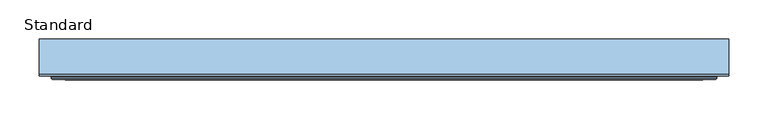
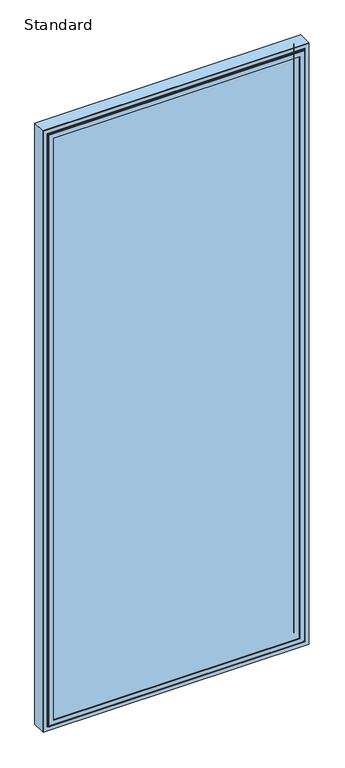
"""IFC4 building model written with IfcOpenShell, lengths in millimetres: window geometry, SMARTS_AlithermHeritage : Standard."""

from ifc_helpers import new_model, si_unit, frame, origin, place, context, project, spatial, polyline, ellipse_curve, outline, extrude, faceted_brep, source, transform, mapped, element, save
from ifc_brep_helpers import plane_surface, cylinder_surface, revolved_surface, advanced_brep


def standard_2bda3373(model_context):
    return source(origin(), model_context, "Body", "SolidModel", [
        extrude(outline(polyline([(2710.0, 440.0), (2710.0, -440.0), (610.0, -440.0), (610.0, 440.0), (2710.0, 440.0)]), holes=[polyline([(627.7000182, 422.2999818), (627.7000182, -422.2999818), (2692.2999818, -422.2999818), (2692.2999818, 422.2999818), (627.7000182, 422.2999818)])]), frame((0.0, 50.279857, 0.0), z_axis=(0.0, 1.0, 0.0), x_axis=(0.0, 0.0, 1.0)), (0.0, 0.0, 1.0), 44.9999962),
        advanced_brep(
        [(407.0, 43.2798432, 2677.0), (407.0, 47.2798432, 2677.0), (407.0, 47.2798432, 643.0), (407.0, 43.2798432, 643.0), (440.0, 50.279857, 2710.0), (440.0, 48.279857, 2710.0), (440.0, 48.279857, 610.0), (440.0, 50.279857, 610.0), (422.4999818, 43.2798432, 2692.4999818), (-422.4999818, 43.2798432, 2692.4999818), (-422.4999818, 43.2798432, 627.5000182), (422.4999818, 43.2798432, 627.5000182), (-407.0, 43.2798432, 643.0), (-407.0, 43.2798432, 2677.0), (-440.0, 50.279857, 2710.0), (-440.0, 48.279857, 2710.0), (-440.0, 50.279857, 610.0), (422.2999818, 50.279857, 2692.2999818), (-422.2999818, 50.279857, 2692.2999818), (-422.2999818, 50.279857, 627.7000182), (422.2999818, 50.279857, 627.7000182), (-407.0, 47.2798432, 2677.0), (-407.0, 47.2798432, 643.0), (-440.0, 48.279857, 610.0), (-422.2999818, 47.2798432, 2692.2999818), (422.2999818, 47.2798432, 2692.2999818), (422.2999818, 47.2798432, 627.7000182), (424.4999818, 46.779857, 625.5000182), (424.4999818, 45.2798432, 625.5000182), (-424.4999818, 45.2798432, 625.5000182), (-424.4999818, 46.779857, 625.5000182), (424.4999818, 46.779857, 2694.4999818), (424.4999818, 45.2798432, 2694.4999818), (-422.2999818, 47.2798432, 627.7000182), (-424.4999818, 45.2798432, 2694.4999818), (-424.4999818, 46.779857, 2694.4999818), (425.9999818, 48.279857, 2695.9999818), (425.9999818, 48.279857, 624.0000182), (-425.9999818, 48.279857, 624.0000182), (-425.9999818, 48.279857, 2695.9999818)],
        [
            (0, 1),
            (1, 2),
            (2, 3),
            (3, 0),
            (4, 5),
            (5, 6),
            (6, 7),
            (7, 4),
            (8, 9),
            (9, 10),
            (10, 11),
            (11, 8),
            (3, 12),
            (12, 13),
            (13, 0),
            (14, 15),
            (15, 5),
            (4, 14),
            (7, 16),
            (16, 14),
            (17, 18),
            (18, 19),
            (19, 20),
            (20, 17),
            (13, 21),
            (21, 1),
            (2, 22),
            (22, 12),
            (22, 21),
            (6, 23),
            (23, 16),
            (23, 15),
            (24, 18),
            (17, 25),
            (25, 24),
            (20, 26),
            (26, 25),
            (27, 28),
            (28, 29),
            (29, 30),
            (30, 27),
            (31, 32),
            (32, 28),
            (27, 31),
            (19, 33),
            (33, 26),
            (24, 33),
            (29, 34),
            (34, 35),
            (35, 30),
            (34, 32),
            (31, 35),
            (36, 31, ellipse_curve(frame((425.9999818, 46.779857, 2695.9999818), z_axis=(-0.7071067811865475, 0.0, 0.7071067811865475), x_axis=(-0.7071067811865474, 0.0, -0.7071067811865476)), 2.1213203, 1.5)),
            (27, 37, ellipse_curve(frame((425.9999818, 46.779857, 624.0000182), z_axis=(-0.7071067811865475, 0.0, -0.7071067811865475), x_axis=(0.7071067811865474, 0.0, -0.7071067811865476)), 2.1213203, 1.5)),
            (37, 36),
            (30, 38, ellipse_curve(frame((-425.9999818, 46.779857, 624.0000182), z_axis=(-0.7071067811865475, 0.0, 0.7071067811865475), x_axis=(-0.7071067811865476, 0.0, -0.7071067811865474)), 2.1213203, 1.5)),
            (38, 37),
            (35, 39, ellipse_curve(frame((-425.9999818, 46.779857, 2695.9999818), z_axis=(0.7071067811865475, 0.0, 0.7071067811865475), x_axis=(-0.7071067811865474, 0.0, 0.7071067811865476)), 2.1213203, 1.5)),
            (39, 38),
            (36, 39),
            (32, 8, ellipse_curve(frame((422.4999818, 45.2798432, 2692.4999818), z_axis=(0.7071067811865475, 0.0, -0.7071067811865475), x_axis=(0.7071067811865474, 0.0, 0.7071067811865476)), 2.8284271, 2.0)),
            (11, 28, ellipse_curve(frame((422.4999818, 45.2798432, 627.5000182), z_axis=(0.7071067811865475, 0.0, 0.7071067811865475), x_axis=(-0.7071067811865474, 0.0, 0.7071067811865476)), 2.8284271, 2.0)),
            (10, 29, ellipse_curve(frame((-422.4999818, 45.2798432, 627.5000182), z_axis=(0.7071067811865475, 0.0, -0.7071067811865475), x_axis=(0.7071067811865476, 0.0, 0.7071067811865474)), 2.8284271, 2.0)),
            (9, 34, ellipse_curve(frame((-422.4999818, 45.2798432, 2692.4999818), z_axis=(-0.7071067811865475, 0.0, -0.7071067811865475), x_axis=(0.7071067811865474, 0.0, -0.7071067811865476)), 2.8284271, 2.0)),
        ],
        [
            plane_surface(frame((407.0, 47.2798432, 2677.0), z_axis=(-1.0, 0.0, 0.0), x_axis=(0.0, 0.0, -1.0))),
            plane_surface(frame((440.0, 48.279857, 2710.0), z_axis=(1.0, 0.0, 0.0), x_axis=(0.0, 0.0, -1.0))),
            plane_surface(frame((-407.0, 43.2798432, 2677.0), z_axis=(0.0, -1.0, 0.0), x_axis=(1.0, 0.0, 0.0))),
            plane_surface(frame((-440.0, 48.279857, 2710.0), z_axis=(0.0, 0.0, 1.0), x_axis=(1.0, 0.0, 0.0))),
            plane_surface(frame((-440.0, 50.279857, 2710.0), z_axis=(0.0, 1.0, 0.0), x_axis=(1.0, 0.0, 0.0))),
            plane_surface(frame((-407.0, 47.2798432, 2677.0), z_axis=(0.0, 0.0, -1.0), x_axis=(1.0, 0.0, 0.0))),
            plane_surface(frame((407.0, 47.2798432, 643.0), z_axis=(0.0, 0.0, 1.0), x_axis=(-1.0, 0.0, 0.0))),
            plane_surface(frame((-407.0, 47.2798432, 643.0), z_axis=(1.0, 0.0, 0.0), x_axis=(0.0, 0.0, 1.0))),
            plane_surface(frame((440.0, 48.279857, 610.0), z_axis=(0.0, 0.0, -1.0), x_axis=(-1.0, 0.0, 0.0))),
            plane_surface(frame((-440.0, 48.279857, 610.0), z_axis=(-1.0, 0.0, 0.0), x_axis=(0.0, 0.0, 1.0))),
            plane_surface(frame((-422.2999818, 50.279857, 2692.2999818), z_axis=(0.0, 0.0, -1.0), x_axis=(1.0, 0.0, 0.0))),
            plane_surface(frame((422.2999818, 50.279857, 2692.2999818), z_axis=(-1.0, 0.0, 0.0), x_axis=(0.0, 0.0, -1.0))),
            plane_surface(frame((424.4999818, 45.2798432, 625.5000182), z_axis=(0.0, 0.0, -1.0), x_axis=(-1.0, 0.0, 0.0))),
            plane_surface(frame((424.4999818, 45.2798432, 2694.4999818), z_axis=(1.0, 0.0, 0.0), x_axis=(0.0, 0.0, -1.0))),
            plane_surface(frame((422.2999818, 50.279857, 627.7000182), z_axis=(0.0, 0.0, 1.0), x_axis=(-1.0, 0.0, 0.0))),
            plane_surface(frame((-422.2999818, 50.279857, 627.7000182), z_axis=(1.0, 0.0, 0.0), x_axis=(0.0, 0.0, 1.0))),
            plane_surface(frame((-424.4999818, 45.2798432, 625.5000182), z_axis=(-1.0, 0.0, 0.0), x_axis=(0.0, 0.0, 1.0))),
            plane_surface(frame((-422.2999818, 47.2798432, 2692.2999818), z_axis=(0.0, 1.0, 0.0), x_axis=(1.0, 0.0, 0.0))),
            plane_surface(frame((-424.4999818, 45.2798432, 2694.4999818), z_axis=(0.0, 0.0, 1.0), x_axis=(1.0, 0.0, 0.0))),
            revolved_surface(polyline([(424.4999818, 46.779857, 622.5000182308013), (424.4999818, 46.779857, 2697.4999817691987)]), (425.9999818, 46.779857, 2710.0), (0.0, 0.0, -1.0)),
            revolved_surface(polyline([(-427.4999817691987, 46.779857, 625.5000182), (427.49998176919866, 46.779857, 625.5000182)]), (440.0, 46.779857, 624.0000182), (-1.0, 0.0, 0.0)),
            revolved_surface(polyline([(-424.4999818, 46.779857, 2697.4999817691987), (-424.4999818, 46.779857, 622.5000182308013)]), (-425.9999818, 46.779857, 610.0), (0.0, 0.0, 1.0)),
            revolved_surface(polyline([(427.4999817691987, 46.779857, 2694.4999818), (-427.49998176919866, 46.779857, 2694.4999818)]), (-440.0, 46.779857, 2695.9999818), (1.0, 0.0, 0.0)),
            plane_surface(frame((-425.9999818, 48.279857, 2695.9999818), z_axis=(0.0, -1.0, 0.0), x_axis=(1.0, 0.0, 0.0))),
            cylinder_surface(frame((422.4999818, 45.2798432, 2710.0), z_axis=(0.0, 0.0, 1.0), x_axis=(-1.0, 0.0, 0.0)), 2.0),
            cylinder_surface(frame((440.0, 45.2798432, 627.5000182), z_axis=(1.0, 0.0, 0.0), x_axis=(0.0, 0.0, 1.0)), 2.0),
            cylinder_surface(frame((-422.4999818, 45.2798432, 610.0), z_axis=(0.0, 0.0, -1.0), x_axis=(1.0, 0.0, 0.0)), 2.0),
            cylinder_surface(frame((-440.0, 45.2798432, 2692.4999818), z_axis=(-1.0, 0.0, 0.0), x_axis=(0.0, 0.0, -1.0)), 2.0),
        ],
        [
            (0, [[1, 2, 3, 4]]),
            (1, [[5, 6, 7, 8]]),
            (2, [[9, 10, 11, 12], [13, 14, 15, -4]]),
            (3, [[16, 17, -5, 18]]),
            (4, [[19, 20, -18, -8], [21, 22, 23, 24]]),
            (5, [[25, 26, -1, -15]]),
            (6, [[-3, 27, 28, -13]]),
            (7, [[-28, 29, -25, -14]]),
            (8, [[-7, 30, 31, -19]]),
            (9, [[-31, 32, -16, -20]]),
            (10, [[33, -21, 34, 35]]),
            (11, [[-34, -24, 36, 37]]),
            (12, [[38, 39, 40, 41]]),
            (13, [[42, 43, -38, 44]]),
            (14, [[-36, -23, 45, 46]]),
            (15, [[-45, -22, -33, 47]]),
            (16, [[-40, 48, 49, 50]]),
            (17, [[-46, -47, -35, -37], [-26, -29, -27, -2]]),
            (18, [[-49, 51, -42, 52]]),
            (19, [[53, -44, 54, 55]]),
            (20, [[-54, -41, 56, 57]]),
            (21, [[-56, -50, 58, 59]]),
            (22, [[-58, -52, -53, 60]]),
            (23, [[-17, -32, -30, -6], [-57, -59, -60, -55]]),
            (24, [[61, -12, 62, -43]]),
            (25, [[-62, -11, 63, -39]]),
            (26, [[-63, -10, 64, -48]]),
            (27, [[-64, -9, -61, -51]]),
        ],
    ),
        extrude(outline(polyline([(-417.0, 75.2798432), (417.0, 75.2798432), (417.0, 71.2798432), (-417.0, 71.2798432), (-417.0, 75.2798432)])), frame((0.0, 0.0, 633.0), z_axis=(0.0, 0.0, 1.0), x_axis=(1.0, 0.0, 0.0)), (0.0, 0.0, 1.0), 2054.0),
        extrude(outline(polyline([(-417.0, 55.2798432), (417.0, 55.2798432), (417.0, 51.2798432), (-417.0, 51.2798432), (-417.0, 55.2798432)])), frame((0.0, 0.0, 633.0), z_axis=(0.0, 0.0, 1.0), x_axis=(1.0, 0.0, 0.0)), (0.0, 0.0, 1.0), 2054.0),
        extrude(outline(polyline([(2687.0, -417.0), (633.0, -417.0), (633.0, 417.0), (2687.0, 417.0), (2687.0, -417.0)]), holes=[polyline([(2677.0, 407.0), (643.0, 407.0), (643.0, -407.0), (2677.0, -407.0), (2677.0, 407.0)])]), frame((0.0, 55.2798432, 0.0), z_axis=(0.0, 1.0, 0.0), x_axis=(0.0, 0.0, 1.0)), (0.0, 0.0, 1.0), 16.0),
        faceted_brep([(416.8148849, 95.2798432, 2686.8148849), (407.0, 78.2798098, 2677.0), (-407.0, 78.2798098, 2677.0), (-416.8148849, 95.2798432, 2686.8148849), (422.3702676, 78.2798098, 2692.3702676), (422.3702676, 95.2798432, 2692.3702676), (-422.3702676, 95.2798432, 2692.3702676), (-422.3702676, 78.2798098, 2692.3702676), (-422.3702676, 78.2798098, 627.6297324), (-422.3702676, 95.2798432, 627.6297324), (422.3702676, 95.2798432, 627.6297324), (422.3702676, 78.2798098, 627.6297324), (-416.8148849, 95.2798432, 633.1851151), (416.8148849, 95.2798432, 633.1851151), (407.0, 78.2798098, 643.0), (-407.0, 78.2798098, 643.0)], [[[0, 1, 2, 3]], [[4, 5, 6, 7]], [[8, 9, 10, 11]], [[5, 10, 9, 6], [3, 12, 13, 0]], [[7, 8, 11, 4], [1, 14, 15, 2]], [[3, 2, 15, 12]], [[7, 6, 9, 8]], [[12, 15, 14, 13]], [[13, 14, 1, 0]], [[11, 10, 5, 4]]]),
    ])


if __name__ == "__main__":
    model = new_model("IFC4")
    model_context = context("Model", 3, world=origin())
    ifc_project = project(units=[si_unit("LENGTHUNIT", "METRE", prefix="MILLI")], contexts=[model_context])
    site = spatial("IfcSite", under=ifc_project)
    building = spatial("IfcBuilding", under=site)
    placement = place(None, origin())
    standard_shape = standard_2bda3373(model_context)
    element("IfcWindow", 1, ObjectType="SMARTS_AlithermHeritage : Standard", at=placement, inside=building, context=model_context, shape_type="MappedRepresentation", body=[
        mapped(standard_shape, transform((0.0, 0.0, 0.0), x_axis=(1.0, 0.0, 0.0), y_axis=(0.0, 1.0, 0.0), z_axis=(0.0, 0.0, 1.0))),
    ])
    save(model, "model.ifc")
